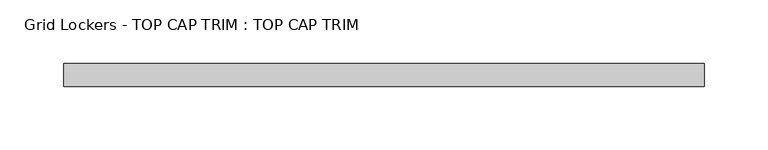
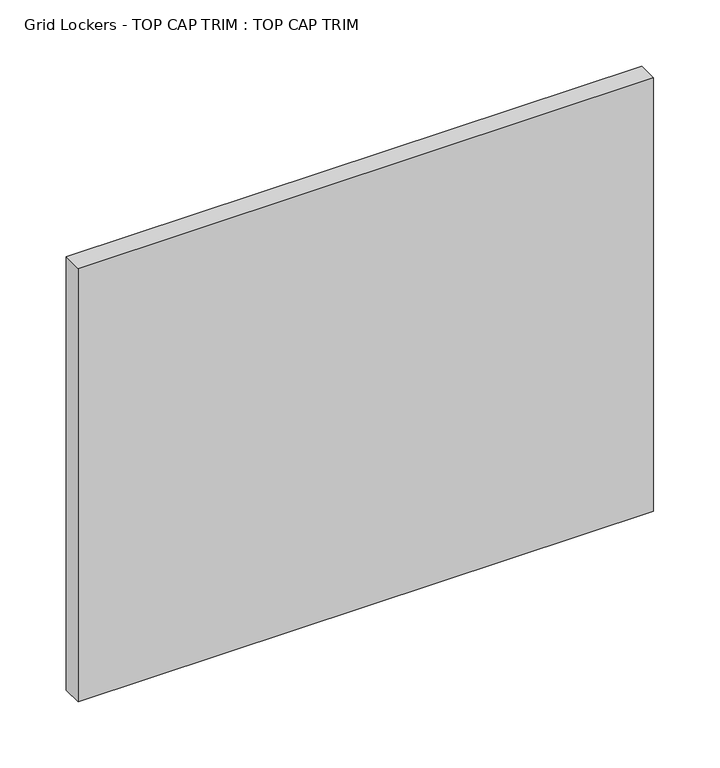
"""IFC4 building model written with IfcOpenShell, lengths in millimetres: furniture geometry, Grid Lockers - TOP CAP TRIM : TOP CAP TRIM."""

from ifc_helpers import new_model, si_unit, origin, origin_with_axes, place, context, project, spatial, polyline, outline, extrude, source, transform, mapped, element, save


def grid_lockers_top_cap_trim_top_cap_trim_b611090b(model_context):
    return source(origin(), model_context, "Body", "SweptSolid", [
        extrude(outline(polyline([(503.0, -18.0), (0.0, -18.0), (0.0, 0.0), (503.0, 0.0), (503.0, -18.0)])), origin_with_axes(), (0.0, 0.0, 1.0), 400.0),
    ])


if __name__ == "__main__":
    model = new_model("IFC4")
    model_context = context("Model", 3, world=origin())
    ifc_project = project(units=[si_unit("LENGTHUNIT", "METRE", prefix="MILLI")], contexts=[model_context])
    site = spatial("IfcSite", under=ifc_project)
    building = spatial("IfcBuilding", under=site)
    placement = place(None, origin())
    grid_lockers_top_cap_trim_top_cap_trim_shape = grid_lockers_top_cap_trim_top_cap_trim_b611090b(model_context)
    element("IfcFurniture", 1, ObjectType="Grid Lockers - TOP CAP TRIM : TOP CAP TRIM", at=placement, inside=building, context=model_context, shape_type="MappedRepresentation", body=[
        mapped(grid_lockers_top_cap_trim_top_cap_trim_shape, transform((0.0, 0.0, 0.0), x_axis=(1.0, 0.0, 0.0), y_axis=(0.0, 1.0, 0.0), z_axis=(0.0, 0.0, 1.0))),
    ])
    save(model, "model.ifc")
